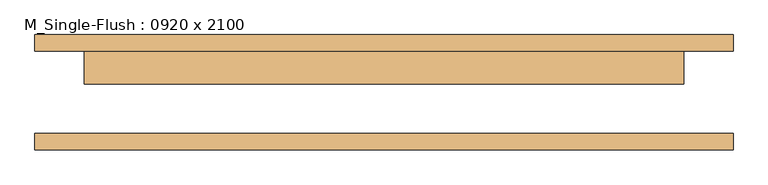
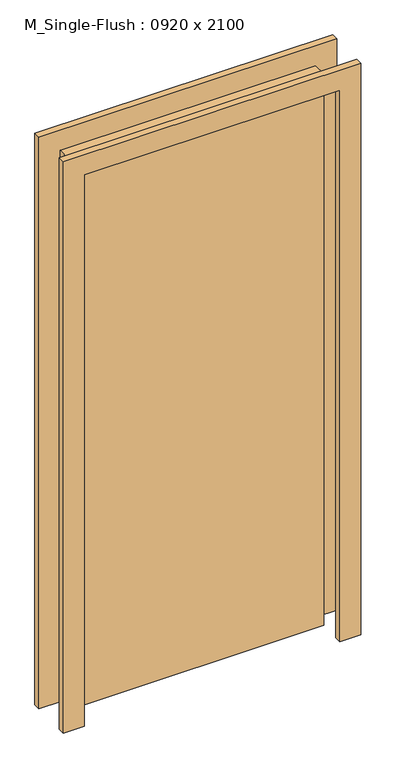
"""IFC4 building model written with IfcOpenShell, lengths in millimetres: door geometry, M_Single-Flush : 0920 x 2100."""

import ifcopenshell
import ifcopenshell.guid

model = None  # the IFC model being written
_history = None  # IfcOwnerHistory: only IFC2X3 demands one
_inside = {}  # id of a spatial element -> (the spatial element, [elements in it])
_under = {}  # id of a project, library or spatial element -> (it, [spatial elements below it])
_declared = {}  # id of a project -> (the project, [libraries it declares])
_typed = {}  # id of a type object -> (the type object, [elements of that type])
_made_of = {}  # id of a material, layer set ... -> (it, [elements and type objects made of it])


def new_model(schema):
    """Start an empty IFC model of exactly this schema.

    Asked for "IFC4X3", IfcOpenShell would pick the latest addendum, in which some entities
    have other attributes; the version numbers below select the first issue.
    IFC2X3 requires an IfcOwnerHistory on every rooted entity: one is made here for all.
    """
    global model, _history
    if schema == "IFC4X3":
        model = ifcopenshell.file(schema_version=(4, 3, 0, 0))
    else:
        model = ifcopenshell.file(schema=schema)
    _inside.clear()
    _under.clear()
    _declared.clear()
    _typed.clear()
    _made_of.clear()
    _history = None
    if model.schema == "IFC2X3":
        org = make("IfcOrganization", Name="unknown")
        user = make(
            "IfcPersonAndOrganization",
            ThePerson=make("IfcPerson", FamilyName="unknown"),
            TheOrganization=org,
        )
        app = make(
            "IfcApplication",
            ApplicationDeveloper=org,
            Version="unknown",
            ApplicationFullName="unknown",
            ApplicationIdentifier="unknown",
        )
        _history = make(
            "IfcOwnerHistory",
            OwningUser=user,
            OwningApplication=app,
            ChangeAction="ADDED",
            CreationDate=0,
        )
    return model


def make(cls, **values):
    """One entity of the class cls with the attributes given. An attribute that is None is left unset."""
    return model.create_entity(
        cls, **{name: value for name, value in values.items() if value is not None}
    )


def rooted(cls, **values):
    """An entity with a GlobalId (a new one), such as an element, a storey or a relation."""
    return make(cls, GlobalId=ifcopenshell.guid.new(), OwnerHistory=_history, **values)


def si_unit(unit_type, name, prefix=None):
    """IfcSIUnit, for example si_unit("LENGTHUNIT", "METRE", prefix="MILLI")."""
    return make("IfcSIUnit", UnitType=unit_type, Prefix=prefix, Name=name)


def assignment(units):
    """IfcUnitAssignment: the units of a project."""
    return None if units is None else make("IfcUnitAssignment", Units=units)


def point(xyz):
    """IfcCartesianPoint."""
    return None if xyz is None else make("IfcCartesianPoint", Coordinates=xyz)


def direction(xyz):
    """IfcDirection."""
    return None if xyz is None else make("IfcDirection", DirectionRatios=xyz)


def frame(location, z_axis=None, x_axis=None):
    """IfcAxis2Placement3D, a coordinate frame: its origin and axes. An axis left out is left unset."""
    return make(
        "IfcAxis2Placement3D",
        Location=point(location),
        Axis=direction(z_axis),
        RefDirection=direction(x_axis),
    )


def origin():
    """The frame at (0, 0, 0) with its axes left unset."""
    return frame((0.0, 0.0, 0.0))


def origin_with_axes():
    """The frame at (0, 0, 0) with the z axis (0, 0, 1) and the x axis (1, 0, 0) written out."""
    return frame((0.0, 0.0, 0.0), z_axis=(0.0, 0.0, 1.0), x_axis=(1.0, 0.0, 0.0))


def place(relative_to, where):
    """IfcLocalPlacement: puts the frame where relative to a parent placement (None: the world)."""
    return make(
        "IfcLocalPlacement", PlacementRelTo=relative_to, RelativePlacement=where
    )


def context(
    kind, dimensions, precision=None, world=None, true_north=None, identifier=None
):
    """IfcGeometricRepresentationContext, for example the 3D "Model" context."""
    return make(
        "IfcGeometricRepresentationContext",
        ContextIdentifier=identifier,
        ContextType=kind,
        CoordinateSpaceDimension=dimensions,
        Precision=precision,
        WorldCoordinateSystem=world,
        TrueNorth=true_north,
    )


def project(units=None, contexts=None):
    """IfcProject with its units and contexts."""
    return rooted(
        "IfcProject",
        Name="project",
        RepresentationContexts=contexts,
        UnitsInContext=assignment(units),
    )


def spatial(cls, under=None, at=None, **own):
    """A site, building, storey or space (cls), placed at a placement, below another one or the project."""
    s = rooted(cls, ObjectPlacement=at, **own)
    if under is not None:
        _under.setdefault(under.id(), (under, []))[1].append(s)
    return s


def polyline(points):
    """IfcPolyline through the points."""
    return make("IfcPolyline", Points=[point(p) for p in points])


def outline(outer, holes=None, kind="AREA"):
    """IfcArbitraryClosedProfileDef: a profile drawn as a closed curve; with holes, ...WithVoids."""
    if holes is None:
        return make("IfcArbitraryClosedProfileDef", ProfileType=kind, OuterCurve=outer)
    return make(
        "IfcArbitraryProfileDefWithVoids",
        ProfileType=kind,
        OuterCurve=outer,
        InnerCurves=holes,
    )


def extrude(swept, where, along, depth):
    """IfcExtrudedAreaSolid: the profile swept, set in the frame where, extruded along a direction by depth."""
    return make(
        "IfcExtrudedAreaSolid",
        SweptArea=swept,
        Position=where,
        ExtrudedDirection=direction(along),
        Depth=depth,
    )


def shape(context_of_items, identifier, shape_type, items):
    """IfcShapeRepresentation: the items that make up one representation, for example the "Body"."""
    return make(
        "IfcShapeRepresentation",
        ContextOfItems=context_of_items,
        RepresentationIdentifier=identifier,
        RepresentationType=shape_type,
        Items=items,
    )


def source(mapping_origin, context_of_items, identifier, shape_type, items):
    """IfcRepresentationMap: a shape defined once, which mapped items show again and again."""
    return make(
        "IfcRepresentationMap",
        MappingOrigin=mapping_origin,
        MappedRepresentation=shape(context_of_items, identifier, shape_type, items),
    )


def transform(
    local_origin,
    x_axis=None,
    y_axis=None,
    z_axis=None,
    scale=None,
    scale2=None,
    scale3=None,
    uniform=True,
):
    """IfcCartesianTransformationOperator3D, or its non-uniform kind. x_axis, y_axis, z_axis: its Axis1, 2, 3."""
    if uniform:
        return make(
            "IfcCartesianTransformationOperator3D",
            Axis1=direction(x_axis),
            Axis2=direction(y_axis),
            LocalOrigin=point(local_origin),
            Scale=scale,
            Axis3=direction(z_axis),
        )
    return make(
        "IfcCartesianTransformationOperator3DnonUniform",
        Axis1=direction(x_axis),
        Axis2=direction(y_axis),
        LocalOrigin=point(local_origin),
        Scale=scale,
        Axis3=direction(z_axis),
        Scale2=scale2,
        Scale3=scale3,
    )


def mapped(mapping_source, mapping_target):
    """IfcMappedItem: shows the shape of a source again, moved by a transform."""
    return make(
        "IfcMappedItem", MappingSource=mapping_source, MappingTarget=mapping_target
    )


def made_of(thing, what):
    """Note that an element or type object is made of a material, layer set ...; save() writes the relation."""
    if what is not None:
        _made_of.setdefault(what.id(), (what, []))[1].append(thing)
    return thing


def element(
    cls,
    number,
    at=None,
    inside=None,
    cuts=None,
    type_object=None,
    material=None,
    context=None,
    identifier="Body",
    shape_type=None,
    held_by="IfcProductDefinitionShape",
    body=None,
    shapes=None,
    **own,
):
    """One element of the class cls, such as IfcWall. Its Tag is "e" and its number.

    at: its placement. inside: the storey or other place that contains it. cuts: it is an
    opening in that element (IfcRelVoidsElement). A single representation is given by context,
    identifier, shape_type and body (its items); several are given by shapes. held_by: the class
    of the entity that holds the representations. save() writes the other relations.
    """
    e = rooted(cls, Tag="e%d" % number, ObjectPlacement=at, **own)
    if body is not None:
        shapes = [shape(context, identifier, shape_type, body)]
    if shapes is not None:
        e.Representation = make(held_by, Representations=shapes)
    if inside is not None:
        _inside.setdefault(inside.id(), (inside, []))[1].append(e)
    if cuts is not None:
        rooted(
            "IfcRelVoidsElement", RelatingBuildingElement=cuts, RelatedOpeningElement=e
        )
    if type_object is not None:
        _typed.setdefault(type_object.id(), (type_object, []))[1].append(e)
    return made_of(e, material)


def aggregate(whole, parts):
    """IfcRelAggregates: a whole, such as a stair, and the parts it consists of."""
    return rooted("IfcRelAggregates", RelatingObject=whole, RelatedObjects=parts)


def save(model, path):
    """Write the relations noted so far, then the file.

    IfcRelAggregates (storeys below a building ...), IfcRelContainedInSpatialStructure (elements
    in a storey), IfcRelDefinesByType, IfcRelAssociatesMaterial and IfcRelDeclares: one each for
    every whole, place, type object, material and project.
    """
    for whole, parts in _under.values():
        aggregate(whole, parts)
    for where, things in _inside.values():
        rooted(
            "IfcRelContainedInSpatialStructure",
            RelatedElements=things,
            RelatingStructure=where,
        )
    for kind, things in _typed.values():
        rooted("IfcRelDefinesByType", RelatedObjects=things, RelatingType=kind)
    for what, things in _made_of.values():
        rooted("IfcRelAssociatesMaterial", RelatedObjects=things, RelatingMaterial=what)
    for by, libraries in _declared.values():
        rooted("IfcRelDeclares", RelatingContext=by, RelatedDefinitions=libraries)
    model.write(path)


def m_single_flush_0920_x_2100_fc213812(model_context):
    return source(origin(), model_context, "Body", "SweptSolid", [
        extrude(outline(polyline([(2176.0, -536.0), (0.0, -536.0), (0.0, -460.0), (2100.0, -460.0), (2100.0, 460.0), (0.0, 460.0), (0.0, 536.0), (2176.0, 536.0), (2176.0, -536.0)])), frame((0.0, 63.525, 0.0), z_axis=(0.0, 1.0, 0.0), x_axis=(0.0, 0.0, 1.0)), (0.0, 0.0, 1.0), 25.0),
        extrude(outline(polyline([(2176.0, 536.0), (2176.0, -536.0), (0.0, -536.0), (0.0, -460.0), (2100.0, -460.0), (2100.0, 460.0), (0.0, 460.0), (0.0, 536.0), (2176.0, 536.0)])), frame((0.0, -88.525, 0.0), z_axis=(0.0, 1.0, 0.0), x_axis=(0.0, 0.0, 1.0)), (0.0, 0.0, 1.0), 25.0),
        extrude(outline(polyline([(460.0, 12.525), (-460.0, 12.525), (-460.0, 63.525), (460.0, 63.525), (460.0, 12.525)])), origin_with_axes(), (0.0, 0.0, 1.0), 2100.0),
    ])


if __name__ == "__main__":
    model = new_model("IFC4")
    model_context = context("Model", 3, world=origin())
    ifc_project = project(units=[si_unit("LENGTHUNIT", "METRE", prefix="MILLI")], contexts=[model_context])
    site = spatial("IfcSite", under=ifc_project)
    building = spatial("IfcBuilding", under=site)
    placement = place(None, origin())
    m_single_flush_0920_x_2100_shape = m_single_flush_0920_x_2100_fc213812(model_context)
    element("IfcDoor", 1, ObjectType="M_Single-Flush : 0920 x 2100", at=placement, inside=building, context=model_context, shape_type="MappedRepresentation", body=[
        mapped(m_single_flush_0920_x_2100_shape, transform((0.0, 0.0, 0.0), x_axis=(1.0, 0.0, 0.0), y_axis=(0.0, 1.0, 0.0), z_axis=(0.0, 0.0, 1.0))),
    ])
    save(model, "model.ifc")
